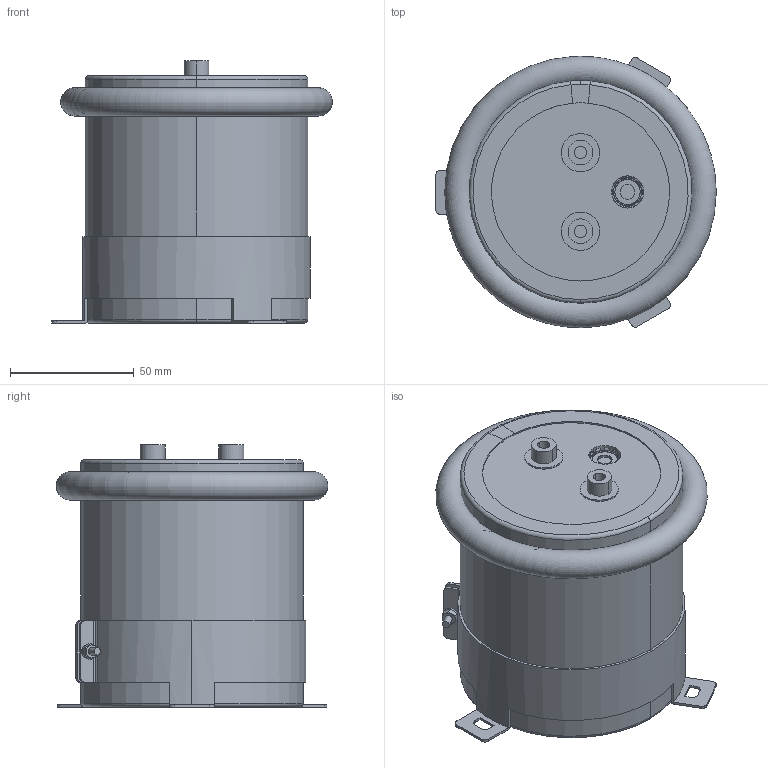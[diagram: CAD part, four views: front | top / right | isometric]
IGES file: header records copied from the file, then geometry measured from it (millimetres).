
Start section: 3D InterOp IGES (v. 2019 1.0.2), Spatial Corp. Copyright (c) 1999-2017.
Global section: file name: 90x100_Screw.igs; native system: Spatial Corp.; preprocessor: 3D InterOp ACIS/IGES; author: Noname; organization: Noname; date: 20220314.143943; units: millimetre
Bounding box: 113.35 x 109.7 x 106 mm (x, y, z)
Volume: 980860.2 mm3; surface area: 265161.8 mm2
Topology: 9 solids, 9 shells, 352 faces, 953 edges, 591 vertices
Faces by surface type: plane 112, cylinder 110, torus 90, cone 38, sphere 2
